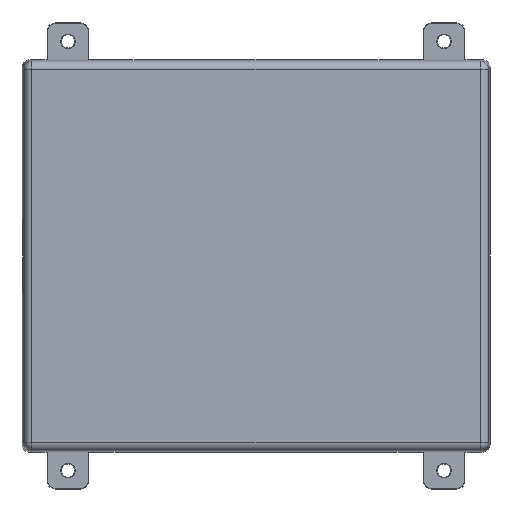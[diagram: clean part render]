
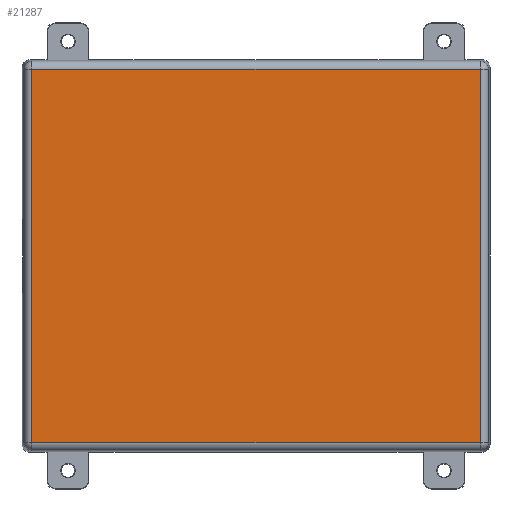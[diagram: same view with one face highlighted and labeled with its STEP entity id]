
A CAD part, front view. The second image highlights one B-rep face of the part: STEP entity #21287.
In plain terms, the highlighted planar face has unit normal (0, -1, 0) as drawn and (0, 0, -1) by its records, which use the part's own axes.
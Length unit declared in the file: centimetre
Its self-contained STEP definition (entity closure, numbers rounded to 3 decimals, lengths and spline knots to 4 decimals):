
#8029=VERTEX_POINT('',#28264);
#8030=VERTEX_POINT('',#28268);
#8031=VERTEX_POINT('',#28276);
#8033=VERTEX_POINT('',#28282);
#9569=VECTOR('',#24199,1.);
#9570=VECTOR('',#24220,1.);
#9572=VECTOR('',#24226,1.);
#9575=VECTOR('',#24233,1.);
#11264=LINE('',#28272,#9569);
#11265=LINE('',#28287,#9570);
#11267=LINE('',#28291,#9572);
#11270=LINE('',#28296,#9575);
#13153=EDGE_CURVE('',#8030,#8029,#11264,.T.);
#13160=EDGE_CURVE('',#8033,#8030,#11265,.T.);
#13162=EDGE_CURVE('',#8031,#8033,#11267,.T.);
#13165=EDGE_CURVE('',#8029,#8031,#11270,.T.);
#16177=ORIENTED_EDGE('',*,*,#13153,.F.);
#16178=ORIENTED_EDGE('',*,*,#13160,.F.);
#16179=ORIENTED_EDGE('',*,*,#13162,.F.);
#16180=ORIENTED_EDGE('',*,*,#13165,.F.);
#19415=EDGE_LOOP('',(#16177,#16178,#16179,#16180));
#20369=FACE_BOUND('',#19415,.T.);
#21287=ADVANCED_FACE('',(#20369),#32608,.F.);
#22198=AXIS2_PLACEMENT_3D('',#28298,#24236,$);
#24199=DIRECTION('',(-1.,0.,0.));
#24220=DIRECTION('',(0.,1.,0.));
#24226=DIRECTION('',(1.,0.,0.));
#24233=DIRECTION('',(0.,-1.,0.));
#24236=DIRECTION('',(0.,0.,1.));
#28264=CARTESIAN_POINT('',(-2.8356,3.4071,-0.0032));
#28268=CARTESIAN_POINT('',(2.8356,3.4071,-0.0032));
#28272=CARTESIAN_POINT('',(0.,3.4071,-0.0032));
#28276=CARTESIAN_POINT('',(-2.8356,-3.4071,-0.0032));
#28282=CARTESIAN_POINT('',(2.8356,-3.4071,-0.0032));
#28287=CARTESIAN_POINT('',(2.8356,0.,-0.0032));
#28291=CARTESIAN_POINT('',(0.,-3.4071,-0.0032));
#28296=CARTESIAN_POINT('',(-2.8356,0.,-0.0032));
#28298=CARTESIAN_POINT('',(0.,0.,-0.0032));
#32608=PLANE('',#22198);
